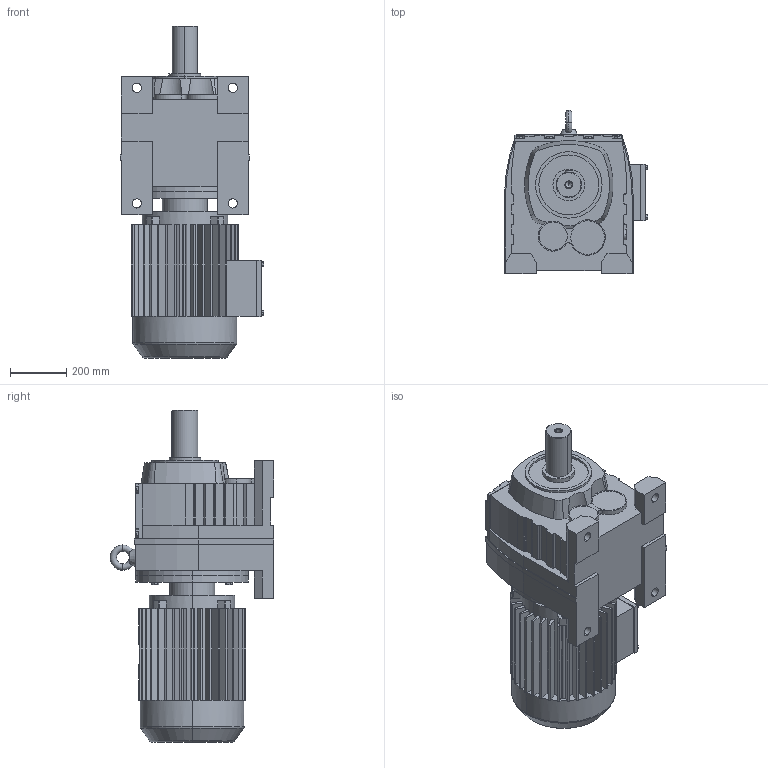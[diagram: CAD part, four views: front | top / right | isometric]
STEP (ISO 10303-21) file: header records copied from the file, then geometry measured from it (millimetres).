
FILE_DESCRIPTION(('Open CASCADE Model'),'2;1');
FILE_NAME('Open CASCADE Shape Model','2021-07-01T16:01:24',('Author'),( 'Open CASCADE'),'Open CASCADE STEP processor 6.3','Open CASCADE 6.3' ,'Unknown');
FILE_SCHEMA(('AUTOMOTIVE_DESIGN_CC2 { 1 2 10303 214 -1 1 5 4 }'));
Length unit declared in the file: millimetre
Products named in the file (3): 1_R137-Y180M; R37‵167_137.step; 萇儂_400_Y180M.step
Assembly tree (2 placements, depth 2):
  1_R137-Y180M
    R37‵167_137.step
    萇儂_400_Y180M.step
Bounding box: 509 x 581 x 1179 mm (x, y, z)
Volume: 130047719.8 mm3; surface area: 3240011.5 mm2
Topology: 2 solids, 2 shells, 736 faces, 1954 edges, 1263 vertices
Faces by surface type: plane 521, cylinder 185, cone 20, torus 10
Entity records: 51205 total; most frequent: CARTESIAN_POINT 13922, DIRECTION 6502, ORIENTED_EDGE 3904, PCURVE 3904, DEFINITIONAL_REPRESENTATION 3904, LINE 3641, VECTOR 3641, EDGE_CURVE 1952
